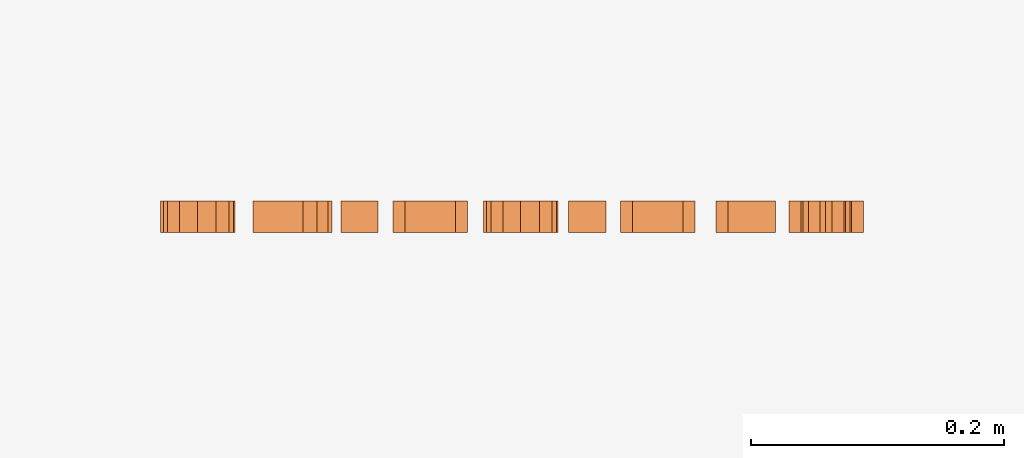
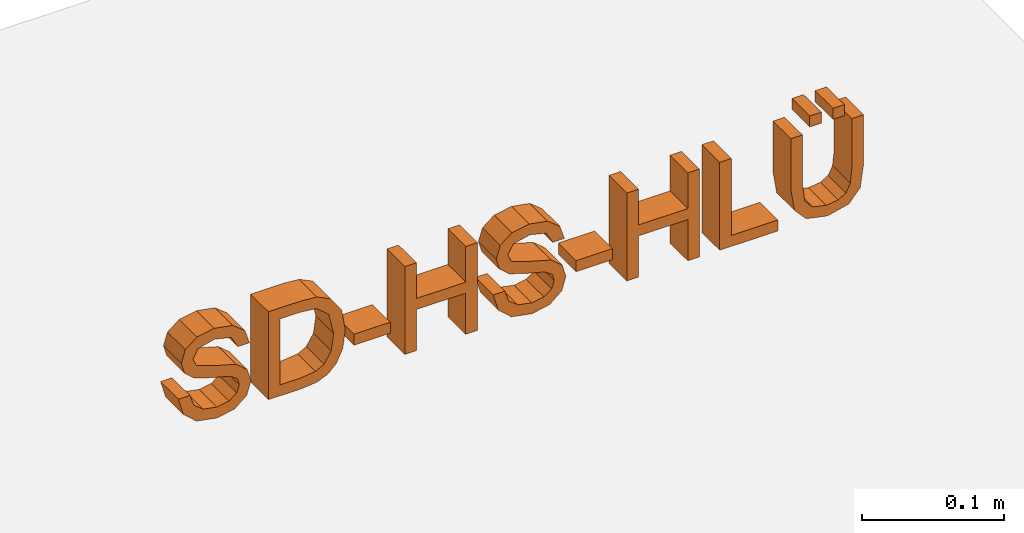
# Not in any storey, part 2 of 2: 1 proxy.
"""IFC4 model written with IfcOpenShell, lengths in metres."""

from ifc_helpers import new_model, entity, si_unit, converted_unit, derived_unit, direction, frame, origin, place, context, subcontext, project, spatial, indexed_curve, outline, extrude, type_object, element, save


model = new_model("IFC4")

# Units and contexts
model_context = context("Model", 3, precision=1e-05, world=origin(), true_north=direction((6.123031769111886e-17, 1.0)))
body_context = subcontext(model_context, "Body", "Model", "MODEL_VIEW")
ifc_project = project(units=[si_unit("LENGTHUNIT", "METRE"), si_unit("AREAUNIT", "SQUARE_METRE"), si_unit("VOLUMEUNIT", "CUBIC_METRE"), converted_unit("PLANEANGLEUNIT", "DEGREE", entity("IfcRatioMeasure", 0.017453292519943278), si_unit("PLANEANGLEUNIT", "RADIAN"), dimensions=[0, 0, 0, 0, 0, 0, 0]), si_unit("MASSUNIT", "GRAM", prefix="KILO"), derived_unit("MASSDENSITYUNIT", [(si_unit("MASSUNIT", "GRAM", prefix="KILO"), 1), (si_unit("LENGTHUNIT", "METRE"), -3)]), derived_unit("IONCONCENTRATIONUNIT", [(si_unit("MASSUNIT", "GRAM", prefix="KILO"), 1), (si_unit("LENGTHUNIT", "METRE"), -3)]), derived_unit("MOMENTOFINERTIAUNIT", [(si_unit("LENGTHUNIT", "METRE"), 4)]), si_unit("TIMEUNIT", "SECOND"), si_unit("FREQUENCYUNIT", "HERTZ"), si_unit("THERMODYNAMICTEMPERATUREUNIT", "DEGREE_CELSIUS"), derived_unit("THERMALTRANSMITTANCEUNIT", [(si_unit("MASSUNIT", "GRAM", prefix="KILO"), 1), (si_unit("THERMODYNAMICTEMPERATUREUNIT", "KELVIN"), -1), (si_unit("TIMEUNIT", "SECOND"), -3)]), derived_unit("THERMALCONDUCTANCEUNIT", [(si_unit("MASSUNIT", "GRAM", prefix="KILO"), 1), (si_unit("THERMODYNAMICTEMPERATUREUNIT", "KELVIN"), -1), (si_unit("TIMEUNIT", "SECOND"), -3), (si_unit("LENGTHUNIT", "METRE"), 1)]), derived_unit("VOLUMETRICFLOWRATEUNIT", [(si_unit("LENGTHUNIT", "METRE"), 3), (si_unit("TIMEUNIT", "SECOND"), -1)]), derived_unit("MASSFLOWRATEUNIT", [(si_unit("MASSUNIT", "GRAM", prefix="KILO"), 1), (si_unit("TIMEUNIT", "SECOND"), -1)]), derived_unit("ROTATIONALFREQUENCYUNIT", [(si_unit("TIMEUNIT", "SECOND"), -1)]), si_unit("ELECTRICCURRENTUNIT", "AMPERE"), si_unit("ELECTRICVOLTAGEUNIT", "VOLT"), si_unit("POWERUNIT", "WATT"), si_unit("FORCEUNIT", "NEWTON", prefix="KILO"), si_unit("ILLUMINANCEUNIT", "LUX"), si_unit("LUMINOUSFLUXUNIT", "LUMEN"), si_unit("LUMINOUSINTENSITYUNIT", "CANDELA"), derived_unit("USERDEFINED", [(si_unit("MASSUNIT", "GRAM", prefix="KILO"), -1), (si_unit("LENGTHUNIT", "METRE"), -2), (si_unit("TIMEUNIT", "SECOND"), 3), (si_unit("LUMINOUSFLUXUNIT", "LUMEN"), 1)]), derived_unit("USERDEFINED", [(si_unit("MASSUNIT", "GRAM", prefix="KILO"), 1), (si_unit("TIMEUNIT", "SECOND"), -3), (si_unit("LENGTHUNIT", "METRE"), 3), (si_unit("ELECTRICCURRENTUNIT", "AMPERE"), -2)]), derived_unit("SOUNDPOWERUNIT", [(si_unit("MASSUNIT", "GRAM", prefix="KILO"), 1), (si_unit("TIMEUNIT", "SECOND"), -3), (si_unit("LENGTHUNIT", "METRE"), 2)]), derived_unit("SOUNDPRESSUREUNIT", [(si_unit("MASSUNIT", "GRAM", prefix="KILO"), 1), (si_unit("LENGTHUNIT", "METRE"), -1), (si_unit("TIMEUNIT", "SECOND"), -2)]), derived_unit("LINEARVELOCITYUNIT", [(si_unit("LENGTHUNIT", "METRE"), 1), (si_unit("TIMEUNIT", "SECOND"), -1)]), si_unit("PRESSUREUNIT", "PASCAL"), derived_unit("USERDEFINED", [(si_unit("MASSUNIT", "GRAM", prefix="KILO"), 1), (si_unit("LENGTHUNIT", "METRE"), -2), (si_unit("TIMEUNIT", "SECOND"), -2)]), derived_unit("LINEARFORCEUNIT", [(si_unit("MASSUNIT", "GRAM", prefix="KILO"), 1), (si_unit("TIMEUNIT", "SECOND"), -2)]), derived_unit("PLANARFORCEUNIT", [(si_unit("MASSUNIT", "GRAM", prefix="KILO"), 1), (si_unit("LENGTHUNIT", "METRE"), -1), (si_unit("TIMEUNIT", "SECOND"), -2)]), derived_unit("SPECIFICHEATCAPACITYUNIT", [(si_unit("THERMODYNAMICTEMPERATUREUNIT", "KELVIN"), -1), (si_unit("LENGTHUNIT", "METRE"), 2), (si_unit("TIMEUNIT", "SECOND"), -2)]), derived_unit("HEATINGVALUEUNIT", [(si_unit("LENGTHUNIT", "METRE"), 2), (si_unit("TIMEUNIT", "SECOND"), -2)]), derived_unit("VAPORPERMEABILITYUNIT", [(si_unit("LENGTHUNIT", "METRE"), -1), (si_unit("TIMEUNIT", "SECOND"), 1)]), derived_unit("DYNAMICVISCOSITYUNIT", [(si_unit("MASSUNIT", "GRAM", prefix="KILO"), 1), (si_unit("TIMEUNIT", "SECOND"), -1), (si_unit("LENGTHUNIT", "METRE"), -1)]), derived_unit("THERMALEXPANSIONCOEFFICIENTUNIT", [(si_unit("THERMODYNAMICTEMPERATUREUNIT", "KELVIN"), -1)]), derived_unit("MODULUSOFELASTICITYUNIT", [(si_unit("MASSUNIT", "GRAM", prefix="KILO"), 1), (si_unit("LENGTHUNIT", "METRE"), -1), (si_unit("TIMEUNIT", "SECOND"), -2)]), derived_unit("ISOTHERMALMOISTURECAPACITYUNIT", [(si_unit("LENGTHUNIT", "METRE"), 3), (si_unit("MASSUNIT", "GRAM", prefix="KILO"), -1)]), derived_unit("MOISTUREDIFFUSIVITYUNIT", [(si_unit("TIMEUNIT", "SECOND"), -1), (si_unit("LENGTHUNIT", "METRE"), 2)])], contexts=[model_context])

# Site
site_placement = place(None, origin())
site = spatial("IfcSite", under=ifc_project, at=site_placement, Name="Default", CompositionType="ELEMENT")

# Proxy
building_element_proxy_type = type_object("IfcBuildingElementProxyType", Name="Modelltext:075mm Arial", PredefinedType="NOTDEFINED")
proxy_placement = place(site_placement, origin())
element("IfcBuildingElementProxy", 1, at=proxy_placement, inside=site, type_object=building_element_proxy_type, Name="Modelltext:075mm Arial", ObjectType="Modelltext:075mm Arial", PredefinedType="NOTDEFINED", context=body_context, shape_type="SweptSolid", body=[
    extrude(outline(indexed_curve([(-0.0302929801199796, 0.011054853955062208), (-0.020875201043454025, 0.011054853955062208), (-0.017840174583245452, 0.020481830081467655), (-0.01042735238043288, 0.02644151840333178), (0.0008666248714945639, 0.028713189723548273), (0.01070746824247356, 0.026993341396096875), (0.01706262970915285, 0.02226605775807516), (0.01915036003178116, 0.015947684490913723), (0.017586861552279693, 0.010070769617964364), (0.011185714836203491, 0.005794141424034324), (-0.0025270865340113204, 0.0021980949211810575), (-0.017288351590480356, -0.0024464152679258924), (-0.025298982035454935, -0.0094545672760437), (-0.02793853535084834, -0.018817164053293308), (-0.024673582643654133, -0.02947654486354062), (-0.015136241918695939, -0.036999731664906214), (-0.0011751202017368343, -0.03956570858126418), (0.013724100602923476, -0.0368801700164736), (0.023656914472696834, -0.02898910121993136), (0.027390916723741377, -0.01719848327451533), (0.01797313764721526, -0.01719848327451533), (0.01263884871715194, -0.0268737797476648), (-0.0008072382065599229, -0.030147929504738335), (-0.014290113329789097, -0.02691056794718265), (-0.018520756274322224, -0.019093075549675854), (-0.015522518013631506, -0.012563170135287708), (-0.00014505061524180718, -0.007302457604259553), (0.016520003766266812, -0.0025751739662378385), (0.025634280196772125, 0.005058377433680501), (0.028568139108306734, 0.01570856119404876), (0.025192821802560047, 0.026974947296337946), (0.015480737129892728, 0.03519710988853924), (0.0012345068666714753, 0.03813096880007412), (-0.015586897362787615, 0.03496718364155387), (-0.026227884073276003, 0.025439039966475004), (-0.0302929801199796, 0.011054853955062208)], self_intersect=False)), frame((3.945099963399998, 42.834392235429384, 2.1351797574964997), z_axis=(0.0, 1.0, 0.0), x_axis=(1.0, 0.0, 0.0)), (0.0, 0.0, 1.0), 0.025000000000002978),
    extrude(outline(indexed_curve([(-0.03575046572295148, -0.039028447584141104), (0.039591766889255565, -0.039028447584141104), (0.039591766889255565, -0.013037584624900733), (0.03850651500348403, 0.0004085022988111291), (0.03311704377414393, 0.011481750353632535), (0.02024117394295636, 0.020402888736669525), (0.002325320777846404, 0.02336433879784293), (-0.012877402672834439, 0.021359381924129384), (-0.023849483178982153, 0.01620903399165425), (-0.030682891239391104, 0.009329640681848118), (-0.03446287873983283, 0.00032572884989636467), (-0.03575046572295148, -0.011786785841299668), (-0.03575046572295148, -0.039028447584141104)], self_intersect=False), holes=[indexed_curve([(-0.02633268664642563, -0.02961066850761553), (-0.02633268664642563, -0.01294561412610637), (-0.024971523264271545, -0.0008239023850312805), (-0.021127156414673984, 0.006165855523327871), (-0.011773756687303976, 0.011895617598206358), (0.0024724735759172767, 0.013946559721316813), (0.020314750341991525, 0.009927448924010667), (0.02866567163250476, 0.00015098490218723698), (0.03017398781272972, -0.013203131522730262), (0.03017398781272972, -0.02961066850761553), (-0.02633268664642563, -0.02961066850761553)], self_intersect=False)]), frame((4.026823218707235, 42.834392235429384, 2.1339764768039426), z_axis=(0.0, 1.0, 0.0), x_axis=(0.0, 0.0, 1.0)), (0.0, 0.0, 1.0), 0.025000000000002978),
    extrude(outline(indexed_curve([(-0.01249999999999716, -0.014715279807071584), (0.01250000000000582, -0.014715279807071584), (0.01250000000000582, 0.014715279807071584), (-0.01249999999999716, 0.014715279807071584), (-0.01249999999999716, -0.014715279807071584)], self_intersect=False)), frame((4.071966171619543, 42.84689223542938, 2.12059323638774), z_axis=(0.0, 0.0, 1.0), x_axis=(0.0, 1.0, 0.0)), (0.0, 0.0, 1.0), 0.009417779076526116),
    extrude(outline(indexed_curve([(-0.03845593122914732, -0.02943055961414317), (0.03688630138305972, -0.02943055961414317), (0.03688630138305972, -0.020012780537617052), (0.006278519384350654, -0.020012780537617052), (0.006278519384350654, 0.020012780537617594), (0.03688630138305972, 0.020012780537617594), (0.03688630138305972, 0.02943055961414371), (-0.03845593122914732, 0.02943055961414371), (-0.03845593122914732, 0.020012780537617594), (-0.003139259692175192, 0.020012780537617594), (-0.003139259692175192, -0.020012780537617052), (-0.03845593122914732, -0.020012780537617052), (-0.03845593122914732, -0.02943055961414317)], self_intersect=False)), frame((4.127884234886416, 42.834392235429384, 2.1366819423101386), z_axis=(0.0, 1.0, 0.0), x_axis=(0.0, 0.0, 1.0)), (0.0, 0.0, 1.0), 0.025000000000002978),
    extrude(outline(indexed_curve([(-0.03029298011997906, 0.011054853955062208), (-0.020875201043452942, 0.011054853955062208), (-0.01784017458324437, 0.020481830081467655), (-0.010427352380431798, 0.02644151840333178), (0.0008666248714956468, 0.028713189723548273), (0.010707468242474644, 0.026993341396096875), (0.017062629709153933, 0.02226605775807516), (0.01915036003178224, 0.015947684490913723), (0.017586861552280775, 0.010070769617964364), (0.011185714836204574, 0.005794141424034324), (-0.0025270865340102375, 0.0021980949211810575), (-0.017288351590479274, -0.0024464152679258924), (-0.025298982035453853, -0.0094545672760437), (-0.027938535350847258, -0.018817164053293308), (-0.02467358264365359, -0.02947654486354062), (-0.015136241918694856, -0.036999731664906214), (-0.0011751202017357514, -0.03956570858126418), (0.013724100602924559, -0.0368801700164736), (0.02365691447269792, -0.02898910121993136), (0.02739091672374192, -0.01719848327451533), (0.017973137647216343, -0.01719848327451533), (0.012638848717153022, -0.0268737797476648), (-0.00080723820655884, -0.030147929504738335), (-0.014290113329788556, -0.02691056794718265), (-0.018520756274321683, -0.019093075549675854), (-0.015522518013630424, -0.012563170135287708), (-0.0001450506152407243, -0.007302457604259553), (0.016520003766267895, -0.0025751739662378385), (0.025634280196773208, 0.005058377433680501), (0.028568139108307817, 0.01570856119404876), (0.02519282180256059, 0.026974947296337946), (0.01548073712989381, 0.03519710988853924), (0.0012345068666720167, 0.03813096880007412), (-0.015586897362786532, 0.03496718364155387), (-0.02622788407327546, 0.025439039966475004), (-0.03029298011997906, 0.011054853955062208)], self_intersect=False)), frame((4.2005572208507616, 42.834392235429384, 2.1351797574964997), z_axis=(0.0, 1.0, 0.0), x_axis=(1.0, 0.0, 0.0)), (0.0, 0.0, 1.0), 0.025000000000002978),
    extrude(outline(indexed_curve([(-0.01249999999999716, -0.014715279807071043), (0.01250000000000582, -0.014715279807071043), (0.01250000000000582, 0.014715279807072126), (-0.01249999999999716, 0.014715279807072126), (-0.01249999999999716, -0.014715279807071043)], self_intersect=False)), frame((4.252081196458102, 42.84689223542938, 2.12059323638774), z_axis=(0.0, 0.0, 1.0), x_axis=(0.0, 1.0, 0.0)), (0.0, 0.0, 1.0), 0.009417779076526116),
    extrude(outline(indexed_curve([(-0.03845593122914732, -0.02943055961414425), (0.03688630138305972, -0.02943055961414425), (0.03688630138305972, -0.020012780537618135), (0.006278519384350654, -0.020012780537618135), (0.006278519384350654, 0.02001278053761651), (0.03688630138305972, 0.02001278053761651), (0.03688630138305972, 0.029430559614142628), (-0.03845593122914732, 0.029430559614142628), (-0.03845593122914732, 0.02001278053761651), (-0.003139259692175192, 0.02001278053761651), (-0.003139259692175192, -0.020012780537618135), (-0.03845593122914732, -0.020012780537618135), (-0.03845593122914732, -0.02943055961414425)], self_intersect=False)), frame((4.307999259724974, 42.834392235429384, 2.1366819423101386), z_axis=(0.0, 1.0, 0.0), x_axis=(0.0, 0.0, 1.0)), (0.0, 0.0, 1.0), 0.025000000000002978),
    extrude(outline(indexed_curve([(-0.028253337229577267, -0.01883555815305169), (0.047088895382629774, -0.01883555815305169), (0.047088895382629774, -0.009417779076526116), (-0.01883555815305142, -0.009417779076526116), (-0.01883555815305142, 0.028253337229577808), (-0.028253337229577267, 0.028253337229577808), (-0.028253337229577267, -0.01883555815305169)], self_intersect=False)), frame((4.3727464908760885, 42.834392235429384, 2.1264793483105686), z_axis=(0.0, 1.0, 0.0), x_axis=(0.0, 0.0, 1.0)), (0.0, 0.0, 1.0), 0.025000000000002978),
    extrude(outline(indexed_curve([(-0.01249999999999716, -0.004708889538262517), (0.01250000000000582, -0.004708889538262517), (0.01250000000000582, 0.004708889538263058), (-0.01249999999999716, 0.004708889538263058), (-0.01249999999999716, -0.004708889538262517)], self_intersect=False)), frame((4.4316076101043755, 42.84689223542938, 2.178277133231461), z_axis=(0.0, 0.0, 1.0), x_axis=(0.0, 1.0, 0.0)), (0.0, 0.0, 1.0), 0.009417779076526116),
    extrude(outline(indexed_curve([(0.019305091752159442, -0.04688825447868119), (0.028722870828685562, -0.04688825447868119), (0.028722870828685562, -0.003422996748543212), (0.02616609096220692, 0.014594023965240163), (0.016950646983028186, 0.025446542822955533), (-0.0005237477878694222, 0.029631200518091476), (-0.01773142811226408, 0.0259891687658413), (-0.027277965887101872, 0.015440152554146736), (-0.030138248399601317, -0.003422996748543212), (-0.030138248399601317, -0.04688825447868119), (-0.02072046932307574, -0.04688825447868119), (-0.02072046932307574, -0.00375409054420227), (-0.018862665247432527, 0.010602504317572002), (-0.012479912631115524, 0.0177118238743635), (-0.0014066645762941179, 0.02021342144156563), (0.008172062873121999, 0.018976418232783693), (0.014541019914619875, 0.015265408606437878), (0.018114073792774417, 0.008036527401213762), (0.019305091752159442, -0.00375409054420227), (0.019305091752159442, -0.04688825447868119)], self_intersect=False)), frame((4.44173307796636, 42.834392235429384, 2.126679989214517), z_axis=(0.0, 1.0, 0.0), x_axis=(1.0, 0.0, 0.0)), (0.0, 0.0, 1.0), 0.025000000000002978),
    extrude(outline(indexed_curve([(-0.01249999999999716, -0.004708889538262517), (0.01250000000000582, -0.004708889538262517), (0.01250000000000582, 0.0047088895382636), (-0.01249999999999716, 0.0047088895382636), (-0.01249999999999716, -0.004708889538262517)], self_intersect=False)), frame((4.4504431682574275, 42.84689223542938, 2.178277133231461), z_axis=(0.0, 0.0, 1.0), x_axis=(0.0, 1.0, 0.0)), (0.0, 0.0, 1.0), 0.009417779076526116),
])

save(model, "model.ifc")
